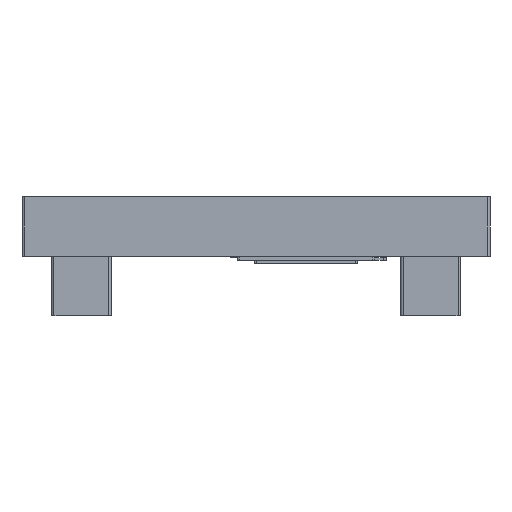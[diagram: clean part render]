
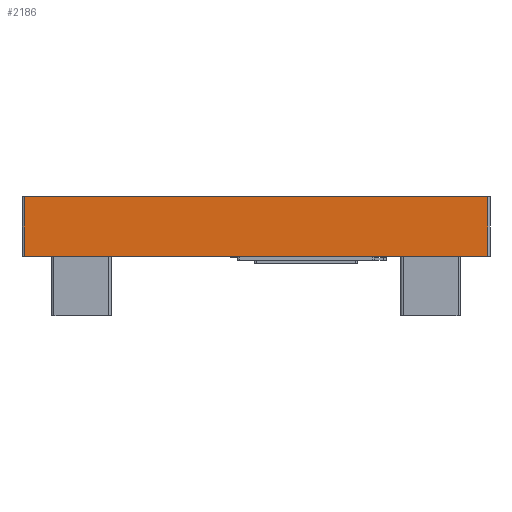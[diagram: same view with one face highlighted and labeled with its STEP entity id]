
A CAD part, front view. The second image highlights one B-rep face of the part: STEP entity #2186.
In plain terms, the highlighted planar face has unit normal (0, -1, 0).
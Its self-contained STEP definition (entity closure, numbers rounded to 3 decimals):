
#1664 = PLANE('',#1665);
#1665 = AXIS2_PLACEMENT_3D('',#1666,#1667,#1668);
#1666 = CARTESIAN_POINT('',(-150.,-182.5,76.2));
#1667 = DIRECTION('',(0.,0.,1.));
#1668 = DIRECTION('',(1.,0.,0.));
#1692 = CYLINDRICAL_SURFACE('',#1693,1.6);
#1693 = AXIS2_PLACEMENT_3D('',#1694,#1695,#1696);
#1694 = CARTESIAN_POINT('',(-148.4,-180.9,38.1));
#1695 = DIRECTION('',(0.,0.,1.));
#1696 = DIRECTION('',(-1.,-0.,0.));
#1720 = PLANE('',#1721);
#1721 = AXIS2_PLACEMENT_3D('',#1722,#1723,#1724);
#1722 = CARTESIAN_POINT('',(-150.,-182.5,38.1));
#1723 = DIRECTION('',(0.,0.,1.));
#1724 = DIRECTION('',(1.,0.,0.));
#1763 = VERTEX_POINT('',#1764);
#1764 = CARTESIAN_POINT('',(-148.4,-182.5,76.2));
#1786 = EDGE_CURVE('',#1763,#1787,#1789,.T.);
#1787 = VERTEX_POINT('',#1788);
#1788 = CARTESIAN_POINT('',(148.4,-182.5,76.2));
#1789 = SURFACE_CURVE('',#1790,(#1794,#1801),.PCURVE_S1.);
#1790 = LINE('',#1791,#1792);
#1791 = CARTESIAN_POINT('',(-150.,-182.5,76.2));
#1792 = VECTOR('',#1793,1.);
#1793 = DIRECTION('',(1.,0.,0.));
#1794 = PCURVE('',#1664,#1795);
#1795 = DEFINITIONAL_REPRESENTATION('',(#1796),#1800);
#1796 = LINE('',#1797,#1798);
#1797 = CARTESIAN_POINT('',(0.,0.));
#1798 = VECTOR('',#1799,1.);
#1799 = DIRECTION('',(1.,0.));
#1800 = ( GEOMETRIC_REPRESENTATION_CONTEXT(2) 
PARAMETRIC_REPRESENTATION_CONTEXT() REPRESENTATION_CONTEXT('2D SPACE',''
  ) );
#1801 = PCURVE('',#1802,#1807);
#1802 = PLANE('',#1803);
#1803 = AXIS2_PLACEMENT_3D('',#1804,#1805,#1806);
#1804 = CARTESIAN_POINT('',(-150.,-182.5,38.1));
#1805 = DIRECTION('',(0.,1.,0.));
#1806 = DIRECTION('',(0.,0.,1.));
#1807 = DEFINITIONAL_REPRESENTATION('',(#1808),#1812);
#1808 = LINE('',#1809,#1810);
#1809 = CARTESIAN_POINT('',(38.1,0.));
#1810 = VECTOR('',#1811,1.);
#1811 = DIRECTION('',(0.,1.));
#1812 = ( GEOMETRIC_REPRESENTATION_CONTEXT(2) 
PARAMETRIC_REPRESENTATION_CONTEXT() REPRESENTATION_CONTEXT('2D SPACE',''
  ) );
#1835 = CYLINDRICAL_SURFACE('',#1836,1.6);
#1836 = AXIS2_PLACEMENT_3D('',#1837,#1838,#1839);
#1837 = CARTESIAN_POINT('',(148.4,-180.9,38.1));
#1838 = DIRECTION('',(0.,0.,1.));
#1839 = DIRECTION('',(1.,0.,-0.));
#1962 = VERTEX_POINT('',#1963);
#1963 = CARTESIAN_POINT('',(-148.4,-182.5,38.1));
#1985 = EDGE_CURVE('',#1962,#1763,#1986,.T.);
#1986 = SURFACE_CURVE('',#1987,(#1991,#1998),.PCURVE_S1.);
#1987 = LINE('',#1988,#1989);
#1988 = CARTESIAN_POINT('',(-148.4,-182.5,38.1));
#1989 = VECTOR('',#1990,1.);
#1990 = DIRECTION('',(0.,0.,1.));
#1991 = PCURVE('',#1692,#1992);
#1992 = DEFINITIONAL_REPRESENTATION('',(#1993),#1997);
#1993 = LINE('',#1994,#1995);
#1994 = CARTESIAN_POINT('',(1.571,0.));
#1995 = VECTOR('',#1996,1.);
#1996 = DIRECTION('',(0.,1.));
#1997 = ( GEOMETRIC_REPRESENTATION_CONTEXT(2) 
PARAMETRIC_REPRESENTATION_CONTEXT() REPRESENTATION_CONTEXT('2D SPACE',''
  ) );
#1998 = PCURVE('',#1802,#1999);
#1999 = DEFINITIONAL_REPRESENTATION('',(#2000),#2004);
#2000 = LINE('',#2001,#2002);
#2001 = CARTESIAN_POINT('',(0.,1.6));
#2002 = VECTOR('',#2003,1.);
#2003 = DIRECTION('',(1.,0.));
#2004 = ( GEOMETRIC_REPRESENTATION_CONTEXT(2) 
PARAMETRIC_REPRESENTATION_CONTEXT() REPRESENTATION_CONTEXT('2D SPACE',''
  ) );
#2067 = EDGE_CURVE('',#1962,#2068,#2070,.T.);
#2068 = VERTEX_POINT('',#2069);
#2069 = CARTESIAN_POINT('',(148.4,-182.5,38.1));
#2070 = SURFACE_CURVE('',#2071,(#2075,#2082),.PCURVE_S1.);
#2071 = LINE('',#2072,#2073);
#2072 = CARTESIAN_POINT('',(-150.,-182.5,38.1));
#2073 = VECTOR('',#2074,1.);
#2074 = DIRECTION('',(1.,0.,0.));
#2075 = PCURVE('',#1720,#2076);
#2076 = DEFINITIONAL_REPRESENTATION('',(#2077),#2081);
#2077 = LINE('',#2078,#2079);
#2078 = CARTESIAN_POINT('',(0.,0.));
#2079 = VECTOR('',#2080,1.);
#2080 = DIRECTION('',(1.,0.));
#2081 = ( GEOMETRIC_REPRESENTATION_CONTEXT(2) 
PARAMETRIC_REPRESENTATION_CONTEXT() REPRESENTATION_CONTEXT('2D SPACE',''
  ) );
#2082 = PCURVE('',#1802,#2083);
#2083 = DEFINITIONAL_REPRESENTATION('',(#2084),#2088);
#2084 = LINE('',#2085,#2086);
#2085 = CARTESIAN_POINT('',(0.,0.));
#2086 = VECTOR('',#2087,1.);
#2087 = DIRECTION('',(0.,1.));
#2088 = ( GEOMETRIC_REPRESENTATION_CONTEXT(2) 
PARAMETRIC_REPRESENTATION_CONTEXT() REPRESENTATION_CONTEXT('2D SPACE',''
  ) );
#2186 = ADVANCED_FACE('',(#2187),#1802,.F.);
#2187 = FACE_BOUND('',#2188,.F.);
#2188 = EDGE_LOOP('',(#2189,#2190,#2191,#2192));
#2189 = ORIENTED_EDGE('',*,*,#2067,.F.);
#2190 = ORIENTED_EDGE('',*,*,#1985,.T.);
#2191 = ORIENTED_EDGE('',*,*,#1786,.T.);
#2192 = ORIENTED_EDGE('',*,*,#2193,.F.);
#2193 = EDGE_CURVE('',#2068,#1787,#2194,.T.);
#2194 = SURFACE_CURVE('',#2195,(#2199,#2206),.PCURVE_S1.);
#2195 = LINE('',#2196,#2197);
#2196 = CARTESIAN_POINT('',(148.4,-182.5,38.1));
#2197 = VECTOR('',#2198,1.);
#2198 = DIRECTION('',(0.,0.,1.));
#2199 = PCURVE('',#1802,#2200);
#2200 = DEFINITIONAL_REPRESENTATION('',(#2201),#2205);
#2201 = LINE('',#2202,#2203);
#2202 = CARTESIAN_POINT('',(0.,298.4));
#2203 = VECTOR('',#2204,1.);
#2204 = DIRECTION('',(1.,0.));
#2205 = ( GEOMETRIC_REPRESENTATION_CONTEXT(2) 
PARAMETRIC_REPRESENTATION_CONTEXT() REPRESENTATION_CONTEXT('2D SPACE',''
  ) );
#2206 = PCURVE('',#1835,#2207);
#2207 = DEFINITIONAL_REPRESENTATION('',(#2208),#2212);
#2208 = LINE('',#2209,#2210);
#2209 = CARTESIAN_POINT('',(-1.571,0.));
#2210 = VECTOR('',#2211,1.);
#2211 = DIRECTION('',(-0.,1.));
#2212 = ( GEOMETRIC_REPRESENTATION_CONTEXT(2) 
PARAMETRIC_REPRESENTATION_CONTEXT() REPRESENTATION_CONTEXT('2D SPACE',''
  ) );
